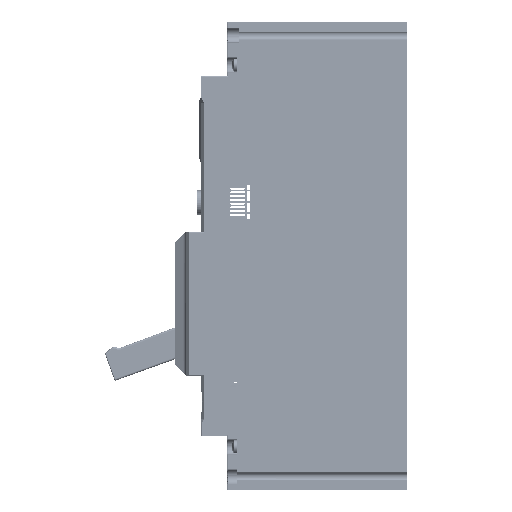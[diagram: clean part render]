
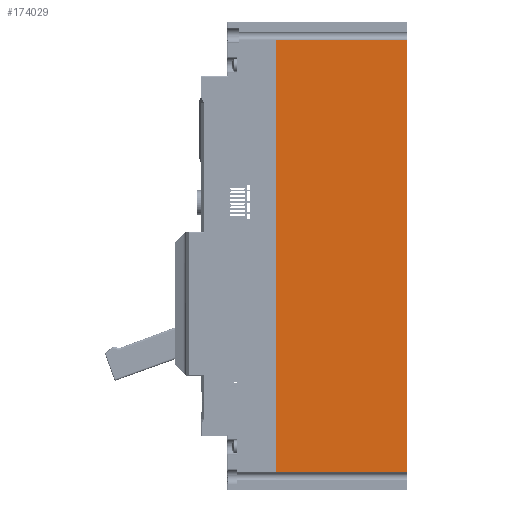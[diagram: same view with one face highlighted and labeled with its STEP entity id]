
A CAD part, left-side view. The second image highlights one B-rep face of the part: STEP entity #174029.
In plain terms, the highlighted planar face has unit normal (-1, 0, 0).
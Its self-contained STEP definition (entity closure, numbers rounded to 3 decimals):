
#6060 = CARTESIAN_POINT ( 'NONE',  ( -113.233, 14.895, 165.834 ) ) ;
#20096 = EDGE_CURVE ( 'NONE', #188200, #94570, #84328, .T. ) ;
#22563 = VERTEX_POINT ( 'NONE', #195200 ) ;
#33221 = DIRECTION ( 'NONE',  ( 0., 1., 0. ) ) ;
#39123 = CARTESIAN_POINT ( 'NONE',  ( -113.233, -55.105, -74.666 ) ) ;
#68412 = DIRECTION ( 'NONE',  ( 0., 1., 0. ) ) ;
#84328 = LINE ( 'NONE', #217445, #384196 ) ;
#85548 = ORIENTED_EDGE ( 'NONE', *, *, #161333, .T. ) ;
#91781 = LINE ( 'NONE', #218752, #310288 ) ;
#94570 = VERTEX_POINT ( 'NONE', #295791 ) ;
#97493 = ORIENTED_EDGE ( 'NONE', *, *, #340612, .T. ) ;
#97794 = VECTOR ( 'NONE', #173038, 1000. ) ;
#104791 = VECTOR ( 'NONE', #68412, 1000. ) ;
#121673 = VERTEX_POINT ( 'NONE', #237654 ) ;
#143836 = LINE ( 'NONE', #272825, #97794 ) ;
#149797 = AXIS2_PLACEMENT_3D ( 'NONE', #6060, #191420, #33221 ) ;
#161333 = EDGE_CURVE ( 'NONE', #121673, #188200, #91781, .T. ) ;
#168255 = CARTESIAN_POINT ( 'NONE',  ( -113.233, -65.84, 156.334 ) ) ;
#173038 = DIRECTION ( 'NONE',  ( 0., 0., 1. ) ) ;
#174029 = ADVANCED_FACE ( 'NONE', ( #382888 ), #378804, .F. ) ;
#188200 = VERTEX_POINT ( 'NONE', #39123 ) ;
#191420 = DIRECTION ( 'NONE',  ( 1., 0., 0. ) ) ;
#195200 = CARTESIAN_POINT ( 'NONE',  ( -113.233, 14.895, 156.334 ) ) ;
#212242 = ORIENTED_EDGE ( 'NONE', *, *, #20096, .T. ) ;
#217445 = CARTESIAN_POINT ( 'NONE',  ( -113.233, -55.105, 165.834 ) ) ;
#218752 = CARTESIAN_POINT ( 'NONE',  ( -113.233, -65.84, -74.666 ) ) ;
#237654 = CARTESIAN_POINT ( 'NONE',  ( -113.233, 14.895, -74.666 ) ) ;
#252061 = DIRECTION ( 'NONE',  ( 0., -1., 0. ) ) ;
#272825 = CARTESIAN_POINT ( 'NONE',  ( -113.233, 14.895, 165.834 ) ) ;
#289061 = LINE ( 'NONE', #168255, #104791 ) ;
#295791 = CARTESIAN_POINT ( 'NONE',  ( -113.233, -55.105, 156.334 ) ) ;
#302975 = DIRECTION ( 'NONE',  ( 0., 0., 1. ) ) ;
#306246 = ORIENTED_EDGE ( 'NONE', *, *, #319057, .F. ) ;
#310288 = VECTOR ( 'NONE', #252061, 1000. ) ;
#319057 = EDGE_CURVE ( 'NONE', #121673, #22563, #143836, .T. ) ;
#340612 = EDGE_CURVE ( 'NONE', #94570, #22563, #289061, .T. ) ;
#378804 = PLANE ( 'NONE',  #149797 ) ;
#382888 = FACE_OUTER_BOUND ( 'NONE', #388408, .T. ) ;
#384196 = VECTOR ( 'NONE', #302975, 1000. ) ;
#388408 = EDGE_LOOP ( 'NONE', ( #306246, #85548, #212242, #97493 ) ) ;
